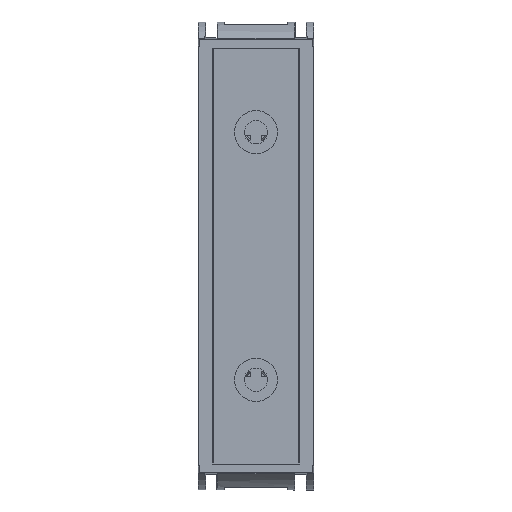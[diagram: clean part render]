
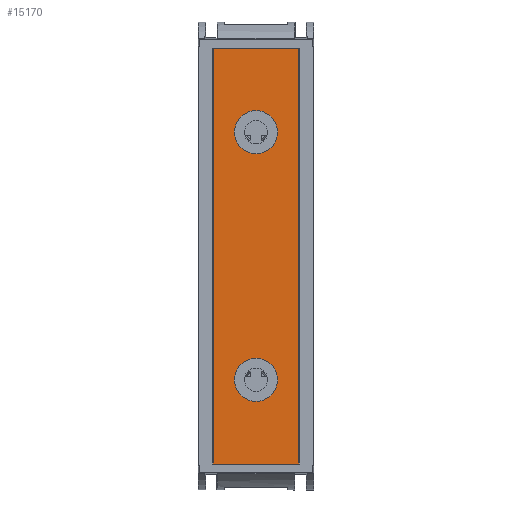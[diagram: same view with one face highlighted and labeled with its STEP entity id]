
A CAD part, left-side view. The second image highlights one B-rep face of the part: STEP entity #15170.
In plain terms, the highlighted planar face has unit normal (-1, 0, 0) as drawn and (0, 0, -1) by its records, which use the part's own axes.
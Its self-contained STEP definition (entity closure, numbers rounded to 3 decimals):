
#14455=CARTESIAN_POINT('',(-4.15,23.8,0.0));
#14456=VERTEX_POINT('',#14455);
#14457=CARTESIAN_POINT('',(0.0,23.8,0.0));
#14458=DIRECTION('',(0.0,0.0,1.0));
#14459=DIRECTION('',(1.0,0.0,0.0));
#14460=AXIS2_PLACEMENT_3D('',#14457,#14458,#14459);
#14461=CIRCLE('',#14460,4.15);
#14462=EDGE_CURVE('',#14456,#14456,#14461,.T.);
#14496=CARTESIAN_POINT('',(-4.15,-23.8,0.0));
#14497=VERTEX_POINT('',#14496);
#14498=CARTESIAN_POINT('',(0.0,-23.8,0.0));
#14499=DIRECTION('',(0.0,0.0,1.0));
#14500=DIRECTION('',(1.0,0.0,0.0));
#14501=AXIS2_PLACEMENT_3D('',#14498,#14499,#14500);
#14502=CIRCLE('',#14501,4.15);
#14503=EDGE_CURVE('',#14497,#14497,#14502,.T.);
#15125=CARTESIAN_POINT('',(0.,0.,0.0));
#15126=DIRECTION('',(0.0,0.0,1.0));
#15127=DIRECTION('',(1.0,0.0,0.0));
#15128=AXIS2_PLACEMENT_3D('',#15125,#15126,#15127);
#15129=PLANE('',#15128);
#15130=CARTESIAN_POINT('',(8.25,40.0,0.0));
#15131=VERTEX_POINT('',#15130);
#15132=CARTESIAN_POINT('',(8.25,-40.0,0.0));
#15133=VERTEX_POINT('',#15132);
#15134=CARTESIAN_POINT('',(8.25,40.0,0.0));
#15135=DIRECTION('',(0.0,-1.0,0.0));
#15136=VECTOR('',#15135,80.0);
#15137=LINE('',#15134,#15136);
#15138=EDGE_CURVE('',#15131,#15133,#15137,.T.);
#15139=ORIENTED_EDGE('',*,*,#15138,.T.);
#15140=CARTESIAN_POINT('',(-8.25,-40.0,0.0));
#15141=VERTEX_POINT('',#15140);
#15142=CARTESIAN_POINT('',(-8.25,-40.0,0.0));
#15143=DIRECTION('',(1.0,0.0,0.0));
#15144=VECTOR('',#15143,16.5);
#15145=LINE('',#15142,#15144);
#15146=EDGE_CURVE('',#15141,#15133,#15145,.T.);
#15147=ORIENTED_EDGE('',*,*,#15146,.F.);
#15148=CARTESIAN_POINT('',(-8.25,40.0,0.0));
#15149=VERTEX_POINT('',#15148);
#15150=CARTESIAN_POINT('',(-8.25,-40.0,0.0));
#15151=DIRECTION('',(0.0,1.0,0.0));
#15152=VECTOR('',#15151,80.0);
#15153=LINE('',#15150,#15152);
#15154=EDGE_CURVE('',#15141,#15149,#15153,.T.);
#15155=ORIENTED_EDGE('',*,*,#15154,.T.);
#15156=CARTESIAN_POINT('',(8.25,40.0,0.0));
#15157=DIRECTION('',(-1.0,0.0,0.0));
#15158=VECTOR('',#15157,16.5);
#15159=LINE('',#15156,#15158);
#15160=EDGE_CURVE('',#15131,#15149,#15159,.T.);
#15161=ORIENTED_EDGE('',*,*,#15160,.F.);
#15162=EDGE_LOOP('',(#15139,#15147,#15155,#15161));
#15163=FACE_OUTER_BOUND('',#15162,.T.);
#15164=ORIENTED_EDGE('',*,*,#14503,.T.);
#15165=EDGE_LOOP('',(#15164));
#15166=FACE_BOUND('',#15165,.T.);
#15167=ORIENTED_EDGE('',*,*,#14462,.T.);
#15168=EDGE_LOOP('',(#15167));
#15169=FACE_BOUND('',#15168,.T.);
#15170=ADVANCED_FACE('',(#15163,#15166,#15169),#15129,.F.);
